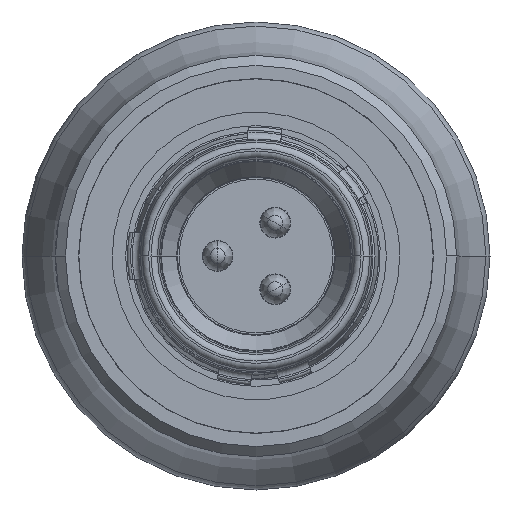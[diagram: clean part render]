
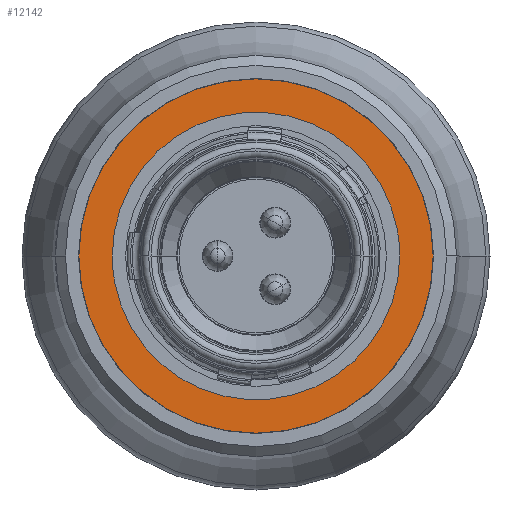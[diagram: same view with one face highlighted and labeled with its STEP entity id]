
A CAD part, left-side view. The second image highlights one B-rep face of the part: STEP entity #12142.
In plain terms, the highlighted planar face has unit normal (-1, 0, 0).
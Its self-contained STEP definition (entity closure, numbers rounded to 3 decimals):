
#466=CARTESIAN_POINT('',(10.,-4.3,0.));
#467=CARTESIAN_POINT('',(10.,-4.299,-0.304));
#468=CARTESIAN_POINT('',(10.,-4.237,
-0.899));
#469=CARTESIAN_POINT('',(10.,-3.956,-1.764));
#470=CARTESIAN_POINT('',(10.,-3.502,-2.549));
#471=CARTESIAN_POINT('',(10.,-2.902,-3.216));
#472=CARTESIAN_POINT('',(10.,-2.167,-3.751));
#473=CARTESIAN_POINT('',(10.,-1.339,-4.119));
#474=CARTESIAN_POINT('',(10.,-0.454,
-4.307));
#475=CARTESIAN_POINT('',(10.,0.447,-4.308));
#476=CARTESIAN_POINT('',(10.,1.33,-4.122));
#477=CARTESIAN_POINT('',(10.,2.155,-3.757));
#478=CARTESIAN_POINT('',(10.,2.89,-3.226));
#479=CARTESIAN_POINT('',(10.,3.494,-2.56));
#480=CARTESIAN_POINT('',(10.,3.953,-1.773));
#481=CARTESIAN_POINT('',(10.,4.237,-0.903));
#482=CARTESIAN_POINT('',(10.,4.299,-0.306));
#483=CARTESIAN_POINT('',(10.,4.3,0.));
#485=CARTESIAN_POINT('',(10.,4.3,0.));
#486=CARTESIAN_POINT('',(10.,4.299,0.304));
#487=CARTESIAN_POINT('',(10.,4.237,0.899));
#488=CARTESIAN_POINT('',(10.,3.956,1.764));
#489=CARTESIAN_POINT('',(10.,3.502,2.549));
#490=CARTESIAN_POINT('',(10.,2.902,3.216));
#491=CARTESIAN_POINT('',(10.,2.167,3.751));
#492=CARTESIAN_POINT('',(10.,1.339,4.119));
#493=CARTESIAN_POINT('',(10.,0.454,4.307));
#494=CARTESIAN_POINT('',(10.,-0.447,4.308));
#495=CARTESIAN_POINT('',(10.,-1.33,4.122));
#496=CARTESIAN_POINT('',(10.,-2.155,3.757));
#497=CARTESIAN_POINT('',(10.,-2.89,3.226));
#498=CARTESIAN_POINT('',(10.,-3.494,2.56));
#499=CARTESIAN_POINT('',(10.,-3.953,1.773));
#500=CARTESIAN_POINT('',(10.,-4.237,0.903));
#501=CARTESIAN_POINT('',(10.,-4.299,0.306));
#502=CARTESIAN_POINT('',(10.,-4.3,0.));
#514=CARTESIAN_POINT('',(9.999,0.,0.));
#515=DIRECTION('',(1.,0.,0.));
#516=DIRECTION('',(0.,1.,0.));
#517=AXIS2_PLACEMENT_3D('',#514,#515,#516);
#519=CARTESIAN_POINT('',(9.999,0.,0.));
#520=DIRECTION('',(1.,0.,0.));
#521=DIRECTION('',(0.,-1.,0.));
#522=AXIS2_PLACEMENT_3D('',#519,#520,#521);
#9795=CARTESIAN_POINT('',(9.999,-5.3,0.));
#9796=VERTEX_POINT('',#9795);
#9797=CARTESIAN_POINT('',(9.999,5.3,0.));
#9798=VERTEX_POINT('',#9797);
#9799=VERTEX_POINT('',#466);
#9800=VERTEX_POINT('',#483);
#12127=CARTESIAN_POINT('',(9.999,0.,0.));
#12128=DIRECTION('',(1.,0.,0.));
#12129=DIRECTION('',(0.,-1.,0.));
#12130=AXIS2_PLACEMENT_3D('',#12127,#12128,#12129);
#12131=PLANE('',#12130);
#12133=ORIENTED_EDGE('',*,*,#12132,.T.);
#12135=ORIENTED_EDGE('',*,*,#12134,.T.);
#12136=EDGE_LOOP('',(#12133,#12135));
#12137=FACE_OUTER_BOUND('',#12136,.F.);
#12138=ORIENTED_EDGE('',*,*,#12109,.F.);
#12139=ORIENTED_EDGE('',*,*,#12111,.F.);
#12140=EDGE_LOOP('',(#12138,#12139));
#12141=FACE_BOUND('',#12140,.F.);
#484=B_SPLINE_CURVE_WITH_KNOTS('',3,(#466,#467,#468,#469,#470,#471,#472,#473,
#474,#475,#476,#477,#478,#479,#480,#481,#482,#483),.UNSPECIFIED.,.F.,.F.,(4,1,1,
1,1,1,1,1,1,1,1,1,1,1,1,4),(0.,0.067,0.133,0.2,
0.267,0.333,0.4,0.467,0.533,
0.6,0.667,0.733,0.8,0.867,
0.933,1.),.UNSPECIFIED.);
#503=B_SPLINE_CURVE_WITH_KNOTS('',3,(#485,#486,#487,#488,#489,#490,#491,#492,
#493,#494,#495,#496,#497,#498,#499,#500,#501,#502),.UNSPECIFIED.,.F.,.F.,(4,1,1,
1,1,1,1,1,1,1,1,1,1,1,1,4),(0.,0.067,0.133,0.2,
0.267,0.333,0.4,0.467,0.533,
0.6,0.667,0.733,0.8,0.867,
0.933,1.),.UNSPECIFIED.);
#518=CIRCLE('',#517,5.3);
#523=CIRCLE('',#522,5.3);
#12109=EDGE_CURVE('',#9799,#9800,#484,.T.);
#12111=EDGE_CURVE('',#9800,#9799,#503,.T.);
#12132=EDGE_CURVE('',#9798,#9796,#518,.T.);
#12134=EDGE_CURVE('',#9796,#9798,#523,.T.);
#12142=ADVANCED_FACE('',(#12137,#12141),#12131,.F.);
